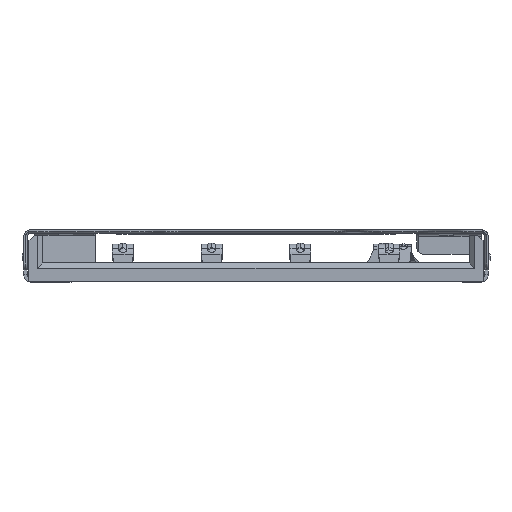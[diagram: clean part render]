
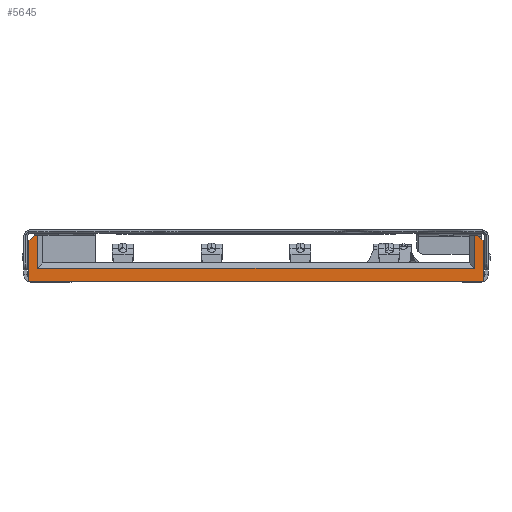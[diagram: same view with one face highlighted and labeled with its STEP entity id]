
A CAD part, front view. The second image highlights one B-rep face of the part: STEP entity #5645.
In plain terms, the highlighted free-form (B-spline) face has degree [1, 1] with [2, 2] control points.
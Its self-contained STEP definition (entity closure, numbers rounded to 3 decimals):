
#2521 = VERTEX_POINT('',#2522);
#2522 = CARTESIAN_POINT('',(-6.5,0.,-1.33));
#2528 = EDGE_CURVE('',#2521,#2529,#2531,.T.);
#2529 = VERTEX_POINT('',#2530);
#2530 = CARTESIAN_POINT('',(6.5,0.,-1.33));
#2531 = LINE('',#2532,#2533);
#2532 = CARTESIAN_POINT('',(-6.5,0.,-1.33));
#2533 = VECTOR('',#2534,1.);
#2534 = DIRECTION('',(1.,0.,0.));
#4522 = EDGE_CURVE('',#4523,#2529,#4525,.T.);
#4523 = VERTEX_POINT('',#4524);
#4524 = CARTESIAN_POINT('',(6.5,0.,-0.15));
#4525 = LINE('',#4526,#4527);
#4526 = CARTESIAN_POINT('',(6.5,0.,-0.15));
#4527 = VECTOR('',#4528,1.);
#4528 = DIRECTION('',(0.,0.,-1.));
#4734 = VERTEX_POINT('',#4735);
#4735 = CARTESIAN_POINT('',(6.35,0.,0.));
#4743 = EDGE_CURVE('',#4523,#4734,#4744,.T.);
#4744 = LINE('',#4745,#4746);
#4745 = CARTESIAN_POINT('',(6.5,0.,-0.15));
#4746 = VECTOR('',#4747,1.);
#4747 = DIRECTION('',(-0.707,0.,0.707));
#4764 = EDGE_CURVE('',#4765,#4734,#4767,.T.);
#4765 = VERTEX_POINT('',#4766);
#4766 = CARTESIAN_POINT('',(6.25,0.,0.));
#4767 = LINE('',#4768,#4769);
#4768 = CARTESIAN_POINT('',(6.25,0.,0.));
#4769 = VECTOR('',#4770,1.);
#4770 = DIRECTION('',(1.,0.,0.));
#5486 = VERTEX_POINT('',#5487);
#5487 = CARTESIAN_POINT('',(-6.35,0.,0.));
#5493 = EDGE_CURVE('',#5486,#5494,#5496,.T.);
#5494 = VERTEX_POINT('',#5495);
#5495 = CARTESIAN_POINT('',(-6.25,0.,0.));
#5496 = LINE('',#5497,#5498);
#5497 = CARTESIAN_POINT('',(-6.35,0.,0.));
#5498 = VECTOR('',#5499,1.);
#5499 = DIRECTION('',(1.,0.,0.));
#5628 = VERTEX_POINT('',#5629);
#5629 = CARTESIAN_POINT('',(-6.5,0.,-0.15));
#5635 = EDGE_CURVE('',#5486,#5628,#5636,.T.);
#5636 = LINE('',#5637,#5638);
#5637 = CARTESIAN_POINT('',(-6.35,0.,0.));
#5638 = VECTOR('',#5639,1.);
#5639 = DIRECTION('',(-0.707,0.,-0.707));
#5645 = ADVANCED_FACE('',(#5646),#5682,.T.);
#5646 = FACE_BOUND('',#5647,.T.);
#5647 = EDGE_LOOP('',(#5648,#5658,#5664,#5665,#5666,#5672,#5673,#5674,
    #5675,#5676));
#5648 = ORIENTED_EDGE('',*,*,#5649,.T.);
#5649 = EDGE_CURVE('',#5650,#5652,#5654,.T.);
#5650 = VERTEX_POINT('',#5651);
#5651 = CARTESIAN_POINT('',(6.25,0.,-0.95));
#5652 = VERTEX_POINT('',#5653);
#5653 = CARTESIAN_POINT('',(-6.25,0.,-0.95));
#5654 = LINE('',#5655,#5656);
#5655 = CARTESIAN_POINT('',(6.25,0.,-0.95));
#5656 = VECTOR('',#5657,1.);
#5657 = DIRECTION('',(-1.,0.,0.));
#5658 = ORIENTED_EDGE('',*,*,#5659,.F.);
#5659 = EDGE_CURVE('',#5494,#5652,#5660,.T.);
#5660 = LINE('',#5661,#5662);
#5661 = CARTESIAN_POINT('',(-6.25,0.,0.));
#5662 = VECTOR('',#5663,1.);
#5663 = DIRECTION('',(0.,0.,-1.));
#5664 = ORIENTED_EDGE('',*,*,#5493,.F.);
#5665 = ORIENTED_EDGE('',*,*,#5635,.T.);
#5666 = ORIENTED_EDGE('',*,*,#5667,.T.);
#5667 = EDGE_CURVE('',#5628,#2521,#5668,.T.);
#5668 = LINE('',#5669,#5670);
#5669 = CARTESIAN_POINT('',(-6.5,0.,-0.15));
#5670 = VECTOR('',#5671,1.);
#5671 = DIRECTION('',(0.,0.,-1.));
#5672 = ORIENTED_EDGE('',*,*,#2528,.T.);
#5673 = ORIENTED_EDGE('',*,*,#4522,.F.);
#5674 = ORIENTED_EDGE('',*,*,#4743,.T.);
#5675 = ORIENTED_EDGE('',*,*,#4764,.F.);
#5676 = ORIENTED_EDGE('',*,*,#5677,.F.);
#5677 = EDGE_CURVE('',#5650,#4765,#5678,.T.);
#5678 = LINE('',#5679,#5680);
#5679 = CARTESIAN_POINT('',(6.25,0.,-0.95));
#5680 = VECTOR('',#5681,1.);
#5681 = DIRECTION('',(0.,0.,1.));
#5682 = B_SPLINE_SURFACE_WITH_KNOTS('',1,1,(
    (#5683,#5684)
    ,(#5685,#5686
  )),.UNSPECIFIED.,.F.,.F.,.F.,(2,2),(2,2),(-0.26,13.26),(-1.357,
    0.027),.PIECEWISE_BEZIER_KNOTS.);
#5683 = CARTESIAN_POINT('',(-6.76,0.,-1.357));
#5684 = CARTESIAN_POINT('',(-6.76,0.,0.027));
#5685 = CARTESIAN_POINT('',(6.76,0.,-1.357));
#5686 = CARTESIAN_POINT('',(6.76,0.,0.027));
